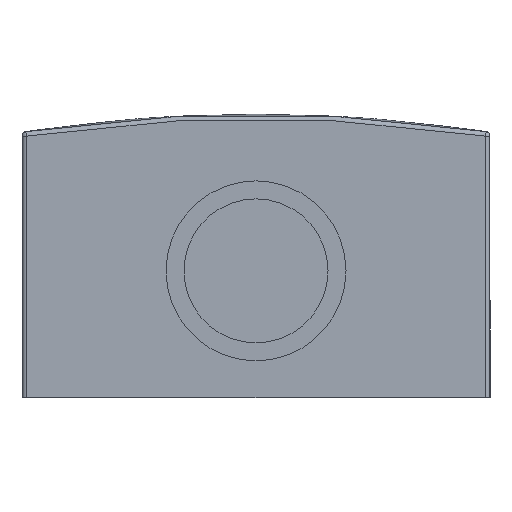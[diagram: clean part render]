
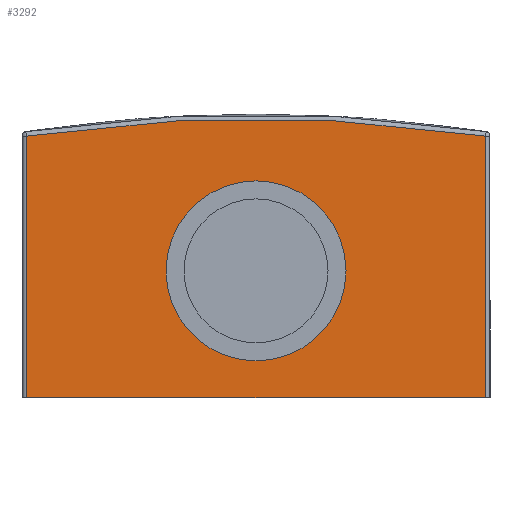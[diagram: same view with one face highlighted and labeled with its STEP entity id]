
A CAD part, front view. The second image highlights one B-rep face of the part: STEP entity #3292.
In plain terms, the highlighted planar face has unit normal (0, -1, 0).
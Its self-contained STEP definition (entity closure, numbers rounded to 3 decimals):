
#2027=CARTESIAN_POINT('',(10.,-48.3,14.1));
#2028=VERTEX_POINT('',#2027);
#2029=CARTESIAN_POINT('',(0.,-48.3,14.1));
#2030=DIRECTION('',(0.0,-1.0,0.0));
#2031=DIRECTION('',(1.0,0.0,0.0));
#2032=AXIS2_PLACEMENT_3D('',#2029,#2030,#2031);
#2033=CIRCLE('',#2032,10.);
#2034=EDGE_CURVE('',#2028,#2028,#2033,.T.);
#3249=CARTESIAN_POINT('',(-26.0,-48.3,32.0));
#3250=DIRECTION('',(0.0,1.0,0.0));
#3251=DIRECTION('',(0.0,0.0,1.0));
#3252=AXIS2_PLACEMENT_3D('',#3249,#3250,#3251);
#3253=PLANE('',#3252);
#3254=CARTESIAN_POINT('',(-25.5,-48.3,29.071));
#3255=VERTEX_POINT('',#3254);
#3256=CARTESIAN_POINT('',(-25.5,-48.3,0.0));
#3257=VERTEX_POINT('',#3256);
#3258=CARTESIAN_POINT('',(-25.5,-48.3,29.071));
#3259=DIRECTION('',(0.0,0.0,-1.0));
#3260=VECTOR('',#3259,29.071);
#3261=LINE('',#3258,#3260);
#3262=EDGE_CURVE('',#3255,#3257,#3261,.T.);
#3263=ORIENTED_EDGE('',*,*,#3262,.T.);
#3264=CARTESIAN_POINT('',(25.5,-48.3,0.0));
#3265=VERTEX_POINT('',#3264);
#3266=CARTESIAN_POINT('',(-25.5,-48.3,0.0));
#3267=DIRECTION('',(1.0,0.0,0.0));
#3268=VECTOR('',#3267,51.);
#3269=LINE('',#3266,#3268);
#3270=EDGE_CURVE('',#3257,#3265,#3269,.T.);
#3271=ORIENTED_EDGE('',*,*,#3270,.T.);
#3272=CARTESIAN_POINT('',(25.5,-48.3,29.071));
#3273=VERTEX_POINT('',#3272);
#3274=CARTESIAN_POINT('',(25.5,-48.3,0.0));
#3275=DIRECTION('',(0.,0.0,1.0));
#3276=VECTOR('',#3275,29.071);
#3277=LINE('',#3274,#3276);
#3278=EDGE_CURVE('',#3265,#3273,#3277,.T.);
#3279=ORIENTED_EDGE('',*,*,#3278,.T.);
#3280=CARTESIAN_POINT('',(0.,-48.3,-138.5));
#3281=DIRECTION('',(0.0,-1.0,0.0));
#3282=DIRECTION('',(-1.0,0.0,0.0));
#3283=AXIS2_PLACEMENT_3D('',#3280,#3281,#3282);
#3284=CIRCLE('',#3283,169.5);
#3285=EDGE_CURVE('',#3273,#3255,#3284,.T.);
#3286=ORIENTED_EDGE('',*,*,#3285,.T.);
#3287=EDGE_LOOP('',(#3263,#3271,#3279,#3286));
#3288=FACE_OUTER_BOUND('',#3287,.T.);
#3289=ORIENTED_EDGE('',*,*,#2034,.F.);
#3290=EDGE_LOOP('',(#3289));
#3291=FACE_BOUND('',#3290,.T.);
#3292=ADVANCED_FACE('',(#3288,#3291),#3253,.F.);
